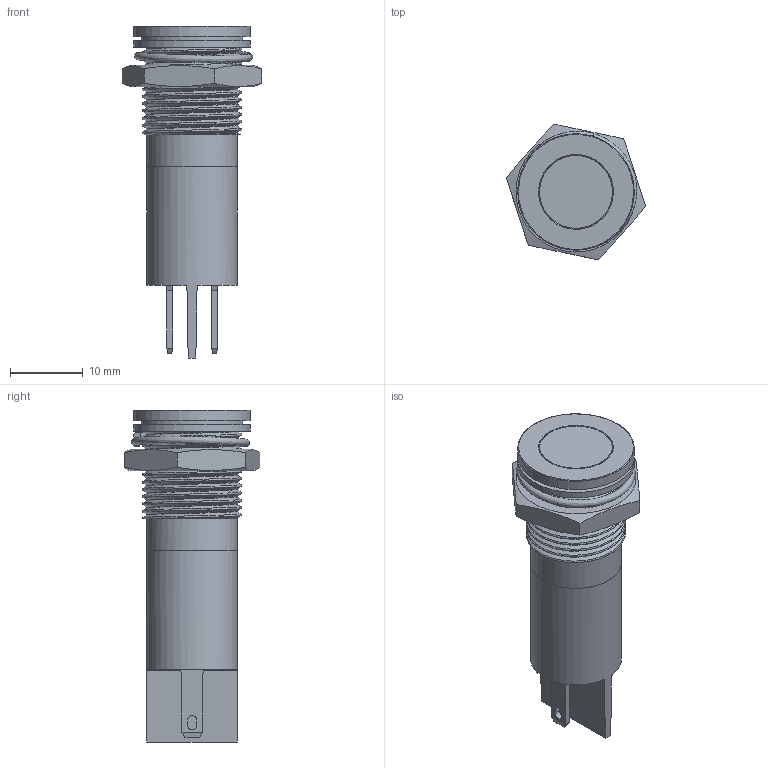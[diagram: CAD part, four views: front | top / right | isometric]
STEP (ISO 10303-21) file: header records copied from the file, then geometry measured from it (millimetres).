
FILE_DESCRIPTION( ( 'Unknown' ), '1' );
FILE_NAME( 'D:/My Documents/Q series 3D files/Q14F1CXXR.stp', 'Unknown', ( 'Unknown' ), ( 'Unknown' ), 'PSStep 15.0.49', 'Unknown', ' ' );
FILE_SCHEMA( ( 'AUTOMOTIVE_DESIGN { 1 0 10303 214 1 1 1 1 }' ) );
Length unit declared in the file: millimetre
Products named in the file (9): Assem1; 10mm-flat LED; 12-0016; 12-0016-oa0; 34-0087; 21-0027; 13-0037; 14-0155-1; 26-0049
Assembly tree (8 placements, depth 2):
  Assem1
    10mm-flat LED
    12-0016
    12-0016-oa0
    34-0087
    21-0027
    13-0037
    14-0155-1
    26-0049
Bounding box: 19.21 x 18.65 x 45.6 mm (x, y, z)
Volume: 3977.4 mm3; surface area: 5891.1 mm2
Topology: 8 solids, 8 shells, 259 faces, 671 edges, 436 vertices
Faces by surface type: plane 177, cylinder 60, cone 11, bspline 8, torus 3
Full cylindrical faces by diameter (mm): 8.8 x1, 10 x1, 10.1 x1, 11.4 x1, 11.5 x1, 12.5 x13, 13.8 x1, 14 x1, 16 x2
Entity records: 21011 total; most frequent: CARTESIAN_POINT 13031, ORIENTED_EDGE 1200, DIRECTION 1192, EDGE_CURVE 600, LINE 418, VECTOR 418, VERTEX_POINT 399, AXIS2_PLACEMENT_3D 387
